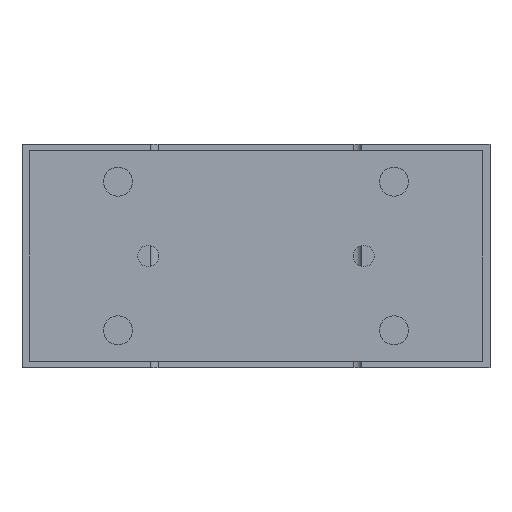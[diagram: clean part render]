
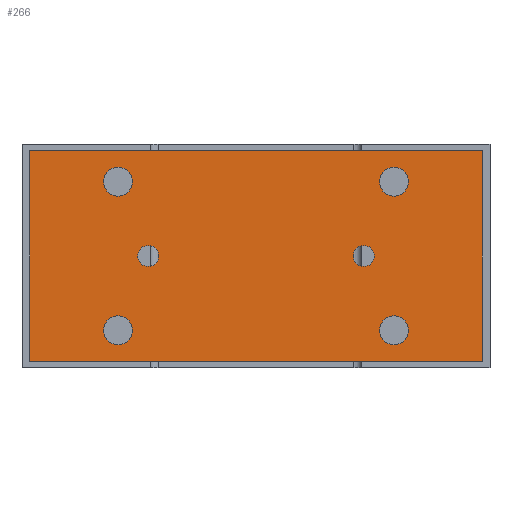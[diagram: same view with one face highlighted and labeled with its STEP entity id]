
A CAD part, left-side view. The second image highlights one B-rep face of the part: STEP entity #266.
In plain terms, the highlighted planar face has unit normal (-1, 0, 0).
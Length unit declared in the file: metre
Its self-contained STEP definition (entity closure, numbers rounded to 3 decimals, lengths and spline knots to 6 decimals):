
#266 = ADVANCED_FACE( '', ( #724, #725, #726, #727, #728, #729, #730 ), #731, .T. );
#724 = FACE_BOUND( '', #1524, .T. );
#725 = FACE_BOUND( '', #1525, .T. );
#726 = FACE_BOUND( '', #1526, .T. );
#727 = FACE_BOUND( '', #1527, .T. );
#728 = FACE_BOUND( '', #1528, .T. );
#729 = FACE_BOUND( '', #1529, .T. );
#730 = FACE_OUTER_BOUND( '', #1530, .T. );
#731 = PLANE( '', #1531 );
#1524 = EDGE_LOOP( '', ( #2356 ) );
#1525 = EDGE_LOOP( '', ( #2357 ) );
#1526 = EDGE_LOOP( '', ( #2358 ) );
#1527 = EDGE_LOOP( '', ( #2359 ) );
#1528 = EDGE_LOOP( '', ( #2360 ) );
#1529 = EDGE_LOOP( '', ( #2361 ) );
#1530 = EDGE_LOOP( '', ( #2362, #2363, #2364, #2365 ) );
#1531 = AXIS2_PLACEMENT_3D( '', #2366, #2367, #2368 );
#2356 = ORIENTED_EDGE( '', *, *, #3857, .F. );
#2357 = ORIENTED_EDGE( '', *, *, #3858, .F. );
#2358 = ORIENTED_EDGE( '', *, *, #3859, .F. );
#2359 = ORIENTED_EDGE( '', *, *, #3860, .F. );
#2360 = ORIENTED_EDGE( '', *, *, #3861, .F. );
#2361 = ORIENTED_EDGE( '', *, *, #3862, .T. );
#2362 = ORIENTED_EDGE( '', *, *, #3863, .T. );
#2363 = ORIENTED_EDGE( '', *, *, #3864, .T. );
#2364 = ORIENTED_EDGE( '', *, *, #3865, .T. );
#2365 = ORIENTED_EDGE( '', *, *, #3866, .T. );
#2366 = CARTESIAN_POINT( '', ( -0.118, -0.086, -0.0025 ) );
#2367 = DIRECTION( '', ( -1., 0., 0. ) );
#2368 = DIRECTION( '', ( 0., 0., 1. ) );
#3857 = EDGE_CURVE( '', #4455, #4455, #4456, .T. );
#3858 = EDGE_CURVE( '', #4457, #4457, #4458, .T. );
#3859 = EDGE_CURVE( '', #4459, #4459, #4460, .T. );
#3860 = EDGE_CURVE( '', #4461, #4461, #4462, .T. );
#3861 = EDGE_CURVE( '', #4463, #4463, #4464, .T. );
#3862 = EDGE_CURVE( '', #4465, #4465, #4466, .T. );
#3863 = EDGE_CURVE( '', #4467, #4468, #4469, .T. );
#3864 = EDGE_CURVE( '', #4468, #4470, #4471, .T. );
#3865 = EDGE_CURVE( '', #4470, #4472, #4473, .T. );
#3866 = EDGE_CURVE( '', #4472, #4467, #4474, .T. );
#4455 = VERTEX_POINT( '', #5311 );
#4456 = CIRCLE( '', #5312, 0.0055 );
#4457 = VERTEX_POINT( '', #5313 );
#4458 = CIRCLE( '', #5314, 0.0055 );
#4459 = VERTEX_POINT( '', #5315 );
#4460 = CIRCLE( '', #5316, 0.0055 );
#4461 = VERTEX_POINT( '', #5317 );
#4462 = CIRCLE( '', #5318, 0.0055 );
#4463 = VERTEX_POINT( '', #5319 );
#4464 = CIRCLE( '', #5320, 0.004 );
#4465 = VERTEX_POINT( '', #5321 );
#4466 = CIRCLE( '', #5322, 0.004 );
#4467 = VERTEX_POINT( '', #5323 );
#4468 = VERTEX_POINT( '', #5324 );
#4469 = LINE( '', #5325, #5326 );
#4470 = VERTEX_POINT( '', #5327 );
#4471 = LINE( '', #5328, #5329 );
#4472 = VERTEX_POINT( '', #5330 );
#4473 = LINE( '', #5331, #5332 );
#4474 = LINE( '', #5333, #5334 );
#5311 = CARTESIAN_POINT( '', ( -0.118, -0.0525, -0.06525 ) );
#5312 = AXIS2_PLACEMENT_3D( '', #6558, #6559, #6560 );
#5313 = CARTESIAN_POINT( '', ( -0.118, 0.0525, -0.06525 ) );
#5314 = AXIS2_PLACEMENT_3D( '', #6561, #6562, #6563 );
#5315 = CARTESIAN_POINT( '', ( -0.118, -0.0525, -0.00875 ) );
#5316 = AXIS2_PLACEMENT_3D( '', #6564, #6565, #6566 );
#5317 = CARTESIAN_POINT( '', ( -0.118, 0.0525, -0.00875 ) );
#5318 = AXIS2_PLACEMENT_3D( '', #6567, #6568, #6569 );
#5319 = CARTESIAN_POINT( '', ( -0.118, -0.037, -0.0425 ) );
#5320 = AXIS2_PLACEMENT_3D( '', #6570, #6571, #6572 );
#5321 = CARTESIAN_POINT( '', ( -0.118, 0.037, -0.0425 ) );
#5322 = AXIS2_PLACEMENT_3D( '', #6573, #6574, #6575 );
#5323 = CARTESIAN_POINT( '', ( -0.118, -0.086, -0.0825 ) );
#5324 = CARTESIAN_POINT( '', ( -0.118, -0.086, -0.0025 ) );
#5325 = CARTESIAN_POINT( '', ( -0.118, -0.086, -0.0825 ) );
#5326 = VECTOR( '', #6576, 1. );
#5327 = CARTESIAN_POINT( '', ( -0.118, 0.086, -0.0025 ) );
#5328 = CARTESIAN_POINT( '', ( -0.118, -0.086, -0.0025 ) );
#5329 = VECTOR( '', #6577, 1. );
#5330 = CARTESIAN_POINT( '', ( -0.118, 0.086, -0.0825 ) );
#5331 = CARTESIAN_POINT( '', ( -0.118, 0.086, -0.0025 ) );
#5332 = VECTOR( '', #6578, 1. );
#5333 = CARTESIAN_POINT( '', ( -0.118, 0.086, -0.0825 ) );
#5334 = VECTOR( '', #6579, 1. );
#6558 = CARTESIAN_POINT( '', ( -0.118, -0.0525, -0.07075 ) );
#6559 = DIRECTION( '', ( -1., 0., 0. ) );
#6560 = DIRECTION( '', ( 0., 0., 1. ) );
#6561 = CARTESIAN_POINT( '', ( -0.118, 0.0525, -0.07075 ) );
#6562 = DIRECTION( '', ( -1., 0., 0. ) );
#6563 = DIRECTION( '', ( 0., 0., 1. ) );
#6564 = CARTESIAN_POINT( '', ( -0.118, -0.0525, -0.01425 ) );
#6565 = DIRECTION( '', ( -1., 0., 0. ) );
#6566 = DIRECTION( '', ( 0., 0., 1. ) );
#6567 = CARTESIAN_POINT( '', ( -0.118, 0.0525, -0.01425 ) );
#6568 = DIRECTION( '', ( -1., 0., 0. ) );
#6569 = DIRECTION( '', ( 0., 0., 1. ) );
#6570 = CARTESIAN_POINT( '', ( -0.118, -0.041, -0.0425 ) );
#6571 = DIRECTION( '', ( -1., 0., 0. ) );
#6572 = DIRECTION( '', ( 0., 1., 0. ) );
#6573 = CARTESIAN_POINT( '', ( -0.118, 0.041, -0.0425 ) );
#6574 = DIRECTION( '', ( 1., 0., 0. ) );
#6575 = DIRECTION( '', ( 0., -1., 0. ) );
#6576 = DIRECTION( '', ( 0., 0., 1. ) );
#6577 = DIRECTION( '', ( 0., 1., 0. ) );
#6578 = DIRECTION( '', ( 0., 0., -1. ) );
#6579 = DIRECTION( '', ( 0., -1., 0. ) );
